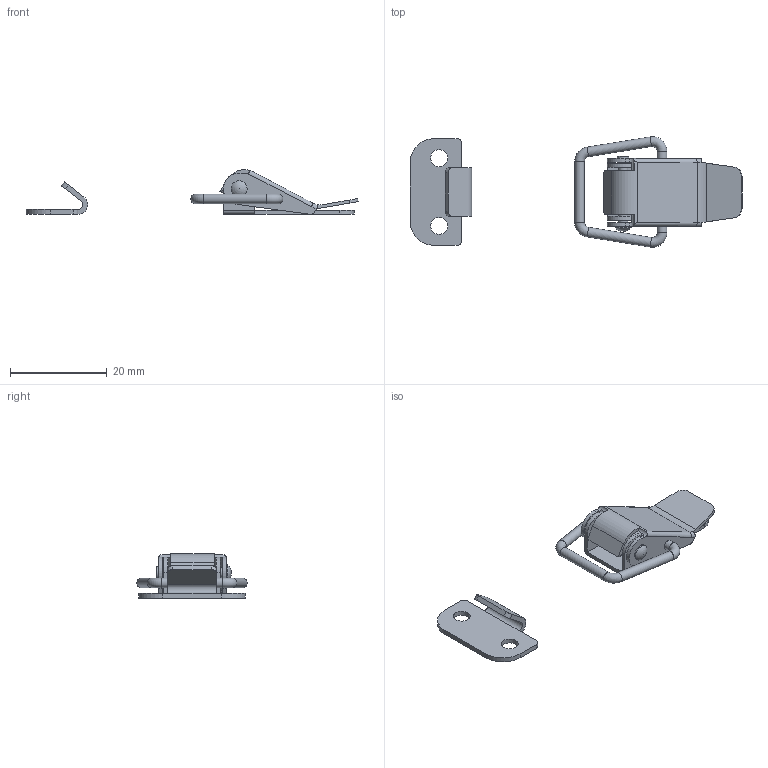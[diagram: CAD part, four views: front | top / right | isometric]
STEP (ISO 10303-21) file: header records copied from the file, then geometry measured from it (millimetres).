
FILE_DESCRIPTION(/* description */ (''),/* implementation_level */ '2;1');
FILE_NAME(/* name */ '\\NAS\db20\C-M1-1\DR_C-M1-1.stp',/* time_stamp */ '2017-09-06T10:26:38+09:00',/* author */ ('user'),/* organization */ (''),/* preprocessor_version */ 'ST-DEVELOPER v15.6',/* originating_system */ 'Autodesk Inventor 2015',/* authorisation */ '');
FILE_SCHEMA (('AUTOMOTIVE_DESIGN { 1 0 10303 214 3 1 1 }'));
Length unit declared in the file: millimetre
Products named in the file (5): DR_C-M1-1-BR; DR_C-M1-1-C; DR_C-M1-1-H; DR_C-M1-1-P; DR_C-M1-1
Bounding box: 68.47 x 22.8 x 9.18 mm (x, y, z)
Volume: 1224 mm3; surface area: 3131.1 mm2
Topology: 4 solids, 4 shells, 105 faces, 271 edges, 175 vertices
Faces by surface type: cylinder 50, plane 47, torus 6, bspline 1, sphere 1
Full cylindrical faces by diameter (mm): 2 x10, 2.4 x1, 3.3 x1, 3.5 x4
Entity records: 3338 total; most frequent: CARTESIAN_POINT 629, DIRECTION 573, ORIENTED_EDGE 496, EDGE_CURVE 248, AXIS2_PLACEMENT_3D 221, VERTEX_POINT 173, EDGE_LOOP 145, LINE 131
